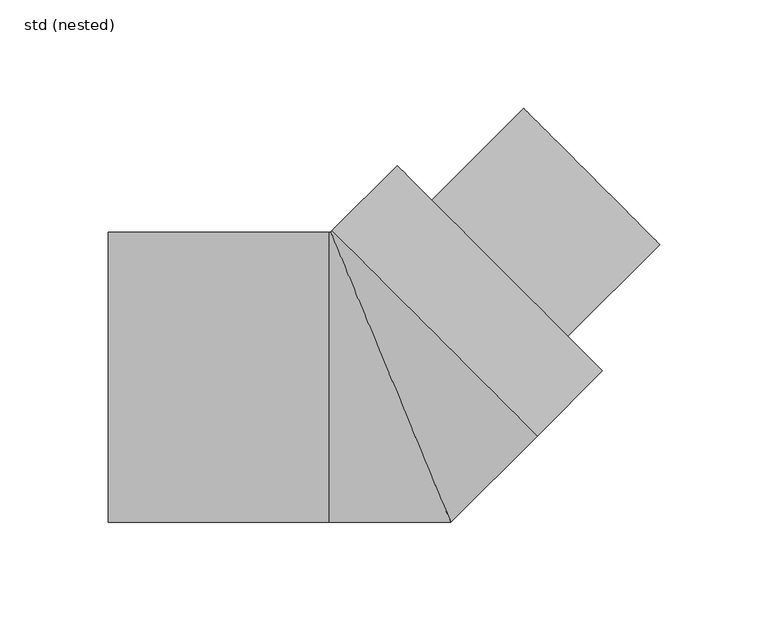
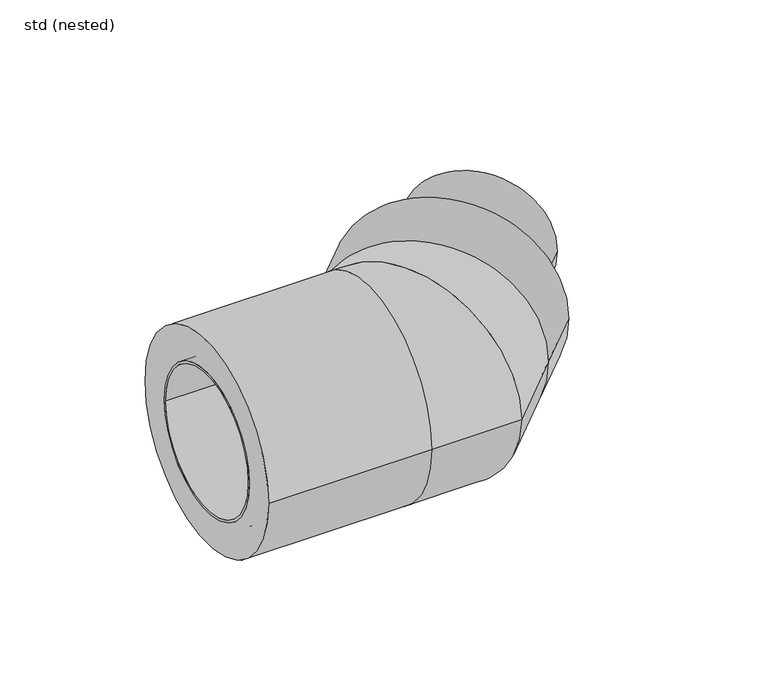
"""IFC4 building model written with IfcOpenShell, lengths in millimetres: pipe fitting geometry, ZZZ_do not use_PIF_ST_WPB_GM-X compound pipe bend_ACO : std (nested)."""

from ifc_helpers import new_model, si_unit, point, frame, frame_2d, origin, place, context, project, spatial, polyline, circle_curve, ellipse_curve, trimmed, segment, composite_curve, outline, extrude, source, transform, mapped, element, save
from ifc_brep_helpers import plane_surface, cylinder_surface, revolved_surface, advanced_brep


def std_nested_ddf6da25(model_context):
    return source(origin(), model_context, "Body", "SolidModel", [
        advanced_brep(
        [(-122.3, -51.3, 0.0), (-122.3, 51.3, 0.0), (-99.5, 51.3, 0.0), (-99.5, -51.3, 0.0), (-130.5, 46.0, 0.0), (-130.5, -46.0, 0.0), (-130.5, -44.5, 0.0), (-130.5, 44.5, 0.0), (-70.5, 46.0, 0.0), (-70.5, -46.0, 0.0), (-70.5, 44.5, 0.0), (-70.5, -44.5, 0.0), (-122.3, 46.0, 0.0), (-122.3, -46.0, 0.0), (-99.5, -46.0, 0.0), (-99.5, 46.0, 0.0)],
        [
            (0, 1, circle_curve(frame((-122.3, 0.0, 0.0), z_axis=(1.0, 0.0, 0.0), x_axis=(0.0, -1.0, 0.0)), 51.3)),
            (1, 2),
            (2, 3, circle_curve(frame((-99.5, 0.0, 0.0), z_axis=(-1.0, 0.0, 0.0), x_axis=(0.0, -1.0, 0.0)), 51.3)),
            (3, 0),
            (1, 0, circle_curve(frame((-122.3, 0.0, 0.0), z_axis=(1.0, 0.0, 0.0), x_axis=(0.0, -1.0, 0.0)), 51.3)),
            (3, 2, circle_curve(frame((-99.5, 0.0, 0.0), z_axis=(-1.0, 0.0, 0.0), x_axis=(0.0, -1.0, 0.0)), 51.3)),
            (4, 5, circle_curve(frame((-130.5, 0.0, 0.0), z_axis=(-1.0, 0.0, 0.0), x_axis=(0.0, -1.0, 0.0)), 46.0)),
            (5, 4, circle_curve(frame((-130.5, 0.0, 0.0), z_axis=(-1.0, 0.0, 0.0), x_axis=(0.0, -1.0, 0.0)), 46.0)),
            (6, 7, circle_curve(frame((-130.5, 0.0, 0.0), z_axis=(1.0, 0.0, 0.0), x_axis=(0.0, -1.0, 0.0)), 44.5)),
            (7, 6, circle_curve(frame((-130.5, 0.0, 0.0), z_axis=(1.0, 0.0, 0.0), x_axis=(0.0, -1.0, 0.0)), 44.5)),
            (8, 9, circle_curve(frame((-70.5, 0.0, 0.0), z_axis=(1.0, 0.0, 0.0), x_axis=(0.0, -1.0, 0.0)), 46.0)),
            (9, 8, circle_curve(frame((-70.5, 0.0, 0.0), z_axis=(1.0, 0.0, 0.0), x_axis=(0.0, -1.0, 0.0)), 46.0)),
            (10, 11, circle_curve(frame((-70.5, 0.0, 0.0), z_axis=(-1.0, 0.0, 0.0), x_axis=(0.0, -1.0, 0.0)), 44.5)),
            (11, 10, circle_curve(frame((-70.5, 0.0, 0.0), z_axis=(-1.0, 0.0, 0.0), x_axis=(0.0, -1.0, 0.0)), 44.5)),
            (4, 12),
            (12, 13, circle_curve(frame((-122.3, 0.0, 0.0), z_axis=(-1.0, 0.0, 0.0), x_axis=(0.0, -1.0, 0.0)), 46.0)),
            (13, 5),
            (9, 14),
            (14, 15, circle_curve(frame((-99.5, 0.0, 0.0), z_axis=(1.0, 0.0, 0.0), x_axis=(0.0, -1.0, 0.0)), 46.0)),
            (15, 8),
            (13, 12, circle_curve(frame((-122.3, 0.0, 0.0), z_axis=(-1.0, 0.0, 0.0), x_axis=(0.0, -1.0, 0.0)), 46.0)),
            (15, 14, circle_curve(frame((-99.5, 0.0, 0.0), z_axis=(1.0, 0.0, 0.0), x_axis=(0.0, -1.0, 0.0)), 46.0)),
            (6, 11),
            (10, 7),
        ],
        [
            cylinder_surface(frame((-99.5, 0.0, 0.0), z_axis=(-1.0, 0.0, 0.0), x_axis=(0.0, -1.0, 0.0)), 51.3),
            plane_surface(frame((-130.5, -46.0, 0.0), z_axis=(-1.0, 0.0, 0.0), x_axis=(0.0, 0.0, 1.0))),
            plane_surface(frame((-70.5, -46.0, 0.0), z_axis=(1.0, 0.0, 0.0), x_axis=(0.0, 0.0, -1.0))),
            cylinder_surface(frame((-70.5, 0.0, 0.0), z_axis=(-1.0, 0.0, 0.0), x_axis=(0.0, -1.0, 0.0)), 46.0),
            revolved_surface(polyline([(-130.5, -44.5, 0.0), (-70.5, -44.5, 0.0)]), (-70.5, 0.0, 0.0), (-1.0, 0.0, 0.0)),
            plane_surface(frame((-122.3, -51.3, 0.0), z_axis=(-1.0, 0.0, 0.0), x_axis=(0.0, 0.0, 1.0))),
            plane_surface(frame((-99.5, -51.3, 0.0), z_axis=(1.0, 0.0, 0.0), x_axis=(0.0, 0.0, -1.0))),
        ],
        [
            (0, [[1, 2, 3, 4]]),
            (0, [[5, -4, 6, -2]]),
            (1, [[7, 8], [9, 10]]),
            (2, [[11, 12], [13, 14]]),
            (3, [[-7, 15, 16, 17]]),
            (3, [[-12, 18, 19, 20]]),
            (3, [[-8, -17, 21, -15]]),
            (3, [[-11, -20, 22, -18]]),
            (4, [[23, -13, 24, -9]]),
            (4, [[-23, -10, -24, -14]]),
            (5, [[-1, -5], [-16, -21]]),
            (6, [[-6, -3], [-19, -22]]),
        ],
    ),
        extrude(outline(composite_curve([segment(trimmed(circle_curve(frame_2d((0.0, -44.5)), 44.5), [point((0.0, -89.0))], [point((0.0, 0.0))], False, "CARTESIAN"), True, "CONTINUOUS"), segment(trimmed(circle_curve(frame_2d((0.0, -44.5)), 44.5), [point((0.0, 0.0))], [point((0.0, -89.0))], False, "CARTESIAN"), True, "CONTINUOUS")], self_intersect=False)), frame((81.8122546, 18.8797511, 0.0), z_axis=(0.7071067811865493, 0.7071067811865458, 0.0), x_axis=(0.0, 0.0, 1.0)), (0.0, 0.0, 1.0), 60.0),
        advanced_brep(
        [(-130.5, -67.0, 0.0), (-130.5, 67.0, 0.0), (-130.5, 46.0, 0.0), (-130.5, -46.0, 0.0), (-28.5807358, -67.0, 0.0), (-28.5807358, 67.0, 0.0), (27.7523087, -67.0, 0.0), (-27.7523087, 67.0, 0.0), (67.5857864, -27.1665222, 0.0), (-27.1665222, 67.5857864, 0.0), (-70.5, -46.0, 0.0), (-70.5, 46.0, 0.0), (2.9698485, 97.7221572, 0.0), (97.7221572, 2.9698485, 0.0)],
        [
            (0, 1, circle_curve(frame((-130.5, 0.0, 0.0), z_axis=(-1.0, 0.0, 0.0), x_axis=(0.0, 1.0, 0.0)), 67.0)),
            (1, 0, circle_curve(frame((-130.5, 0.0, 0.0), z_axis=(-1.0, 0.0, 0.0), x_axis=(0.0, 1.0, 0.0)), 67.0)),
            (2, 3, circle_curve(frame((-130.5, 0.0, 0.0), z_axis=(1.0, 0.0, 0.0), x_axis=(0.0, 1.0, 0.0)), 46.0)),
            (3, 2, circle_curve(frame((-130.5, 0.0, 0.0), z_axis=(1.0, 0.0, 0.0), x_axis=(0.0, 1.0, 0.0)), 46.0)),
            (0, 4),
            (4, 5, circle_curve(frame((-28.5807358, 0.0, 0.0), z_axis=(-1.0, 0.0, 0.0), x_axis=(0.0, 1.0, 0.0)), 67.0)),
            (5, 1),
            (5, 4, circle_curve(frame((-28.5807358, 0.0, 0.0), z_axis=(-1.0, 0.0, 0.0), x_axis=(0.0, 1.0, 0.0)), 67.0)),
            (4, 6),
            (6, 7, ellipse_curve(frame((0.0, 0.0, 0.0), z_axis=(-0.9238795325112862, -0.3826834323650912, 0.0), x_axis=(-0.38268343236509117, 0.9238795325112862, 0.0)), 72.5202774, 67.0)),
            (7, 5),
            (7, 6, ellipse_curve(frame((0.0, 0.0, 0.0), z_axis=(-0.9238795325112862, -0.3826834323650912, 0.0), x_axis=(-0.38268343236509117, 0.9238795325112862, 0.0)), 72.5202774, 67.0)),
            (6, 8),
            (8, 9, circle_curve(frame((20.2096321, 20.2096321, 0.0), z_axis=(-0.7071067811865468, -0.7071067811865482, 0.0), x_axis=(-0.7071067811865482, 0.7071067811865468, 0.0)), 67.0)),
            (9, 7),
            (9, 8, circle_curve(frame((20.2096321, 20.2096321, 0.0), z_axis=(-0.7071067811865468, -0.7071067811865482, 0.0), x_axis=(-0.7071067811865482, 0.7071067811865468, 0.0)), 67.0)),
            (10, 11, circle_curve(frame((-70.5, 0.0, 0.0), z_axis=(-1.0, 0.0, 0.0), x_axis=(0.0, 1.0, 0.0)), 46.0)),
            (11, 10, circle_curve(frame((-70.5, 0.0, 0.0), z_axis=(-1.0, 0.0, 0.0), x_axis=(0.0, 1.0, 0.0)), 46.0)),
            (10, 3),
            (2, 11),
            (12, 13, circle_curve(frame((50.3460028, 50.3460028, 0.0), z_axis=(0.7071067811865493, 0.7071067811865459, 0.0), x_axis=(0.7071067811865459, -0.7071067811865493, 0.0)), 67.0)),
            (13, 12, circle_curve(frame((50.3460028, 50.3460028, 0.0), z_axis=(0.7071067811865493, 0.7071067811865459, 0.0), x_axis=(0.7071067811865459, -0.7071067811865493, 0.0)), 67.0)),
            (8, 13),
            (12, 9),
        ],
        [
            plane_surface(frame((-130.5, 67.0, 0.0), z_axis=(-1.0, 0.0, 0.0), x_axis=(0.0, 0.0, -1.0))),
            cylinder_surface(frame((-28.5807358, 0.0, 0.0), z_axis=(-1.0, 0.0, 0.0), x_axis=(0.0, 1.0, 0.0)), 67.0),
            cylinder_surface(frame((0.0, 0.0, 0.0), z_axis=(-0.7071067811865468, -0.7071067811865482, 0.0), x_axis=(-0.7071067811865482, 0.7071067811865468, 0.0)), 67.0),
            plane_surface(frame((-70.5, 46.0, 0.0), z_axis=(-1.0, 0.0, 0.0), x_axis=(0.0, 0.0, 1.0))),
            revolved_surface(polyline([(-130.5, 46.0, 0.0), (-70.5, 46.0, 0.0)]), (-70.5, 0.0, 0.0), (-1.0, 0.0, 0.0)),
            plane_surface(frame((97.7221572, 2.9698485, 0.0), z_axis=(0.7071067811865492, 0.7071067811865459, 0.0), x_axis=(0.0, 0.0, 1.0))),
            cylinder_surface(frame((20.2096321, 20.2096321, 0.0), z_axis=(0.7071067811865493, 0.7071067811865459, 0.0), x_axis=(0.7071067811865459, -0.7071067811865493, 0.0)), 67.0),
        ],
        [
            (0, [[1, 2], [3, 4]]),
            (1, [[-1, 5, 6, 7]]),
            (1, [[-2, -7, 8, -5]]),
            (1, [[9, 10, 11, -6]]),
            (1, [[-9, -8, -11, 12]]),
            (2, [[-10, 13, 14, 15]]),
            (2, [[-12, -15, 16, -13]]),
            (3, [[17, 18]]),
            (4, [[-17, 19, -3, 20]]),
            (4, [[-18, -20, -4, -19]]),
            (5, [[21, 22]]),
            (6, [[-14, 23, -21, 24]]),
            (6, [[-16, -24, -22, -23]]),
        ],
    ),
    ])


if __name__ == "__main__":
    model = new_model("IFC4")
    model_context = context("Model", 3, world=origin())
    ifc_project = project(units=[si_unit("LENGTHUNIT", "METRE", prefix="MILLI")], contexts=[model_context])
    site = spatial("IfcSite", under=ifc_project)
    building = spatial("IfcBuilding", under=site)
    placement = place(None, origin())
    std_nested_shape = std_nested_ddf6da25(model_context)
    element("IfcPipeFitting", 1, ObjectType="ZZZ_do not use_PIF_ST_WPB_GM-X compound pipe bend_ACO : std (nested)", at=placement, inside=building, context=model_context, shape_type="MappedRepresentation", body=[
        mapped(std_nested_shape, transform((0.0, 0.0, 0.0), x_axis=(1.0, 0.0, 0.0), y_axis=(0.0, 1.0, 0.0), z_axis=(0.0, 0.0, 1.0))),
    ])
    save(model, "model.ifc")
